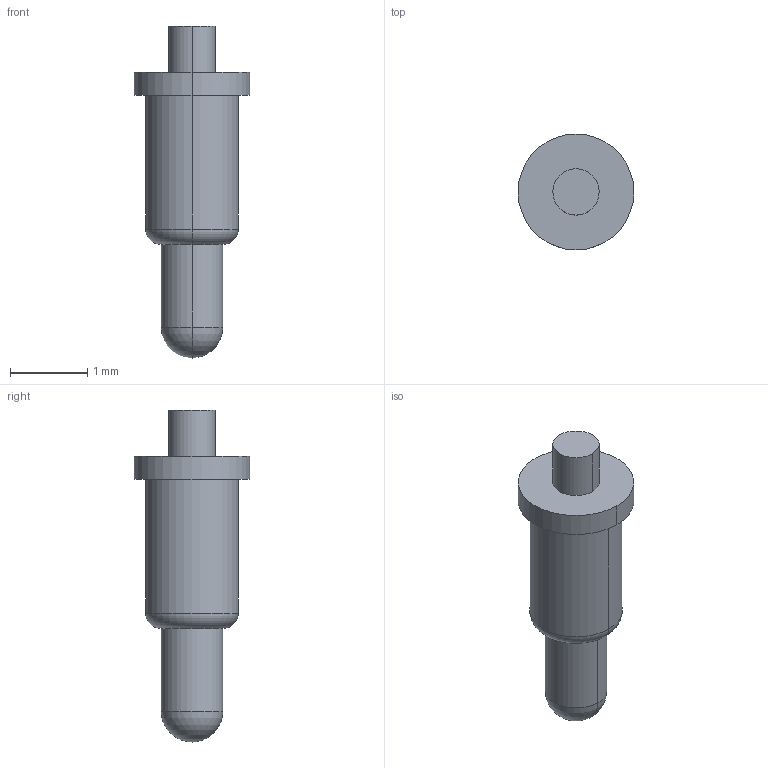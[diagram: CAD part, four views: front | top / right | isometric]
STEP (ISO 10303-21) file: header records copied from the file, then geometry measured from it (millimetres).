
FILE_DESCRIPTION((''),'2;1');
FILE_NAME('PRT0031','2023-05-26T11:54:24',('USER'),(''),'CREO PARAMETRIC BY PTC INC, 2020154','CREO PARAMETRIC BY PTC INC, 2020154','');
FILE_SCHEMA(('CONFIG_CONTROL_DESIGN'));
Length unit declared in the file: millimetre
Products named in the file (1): PRT0031
Bounding box: 1.5 x 1.5 x 4.3 mm (x, y, z)
Volume: 3.5 mm3; surface area: 16.2 mm2
Topology: 1 solids, 1 shells, 15 faces, 30 edges, 17 vertices
Faces by surface type: cylinder 8, plane 3, sphere 2, torus 2
Entity records: 420 total; most frequent: DIRECTION 78, CARTESIAN_POINT 60, ORIENTED_EDGE 56, AXIS2_PLACEMENT_3D 35, EDGE_CURVE 28, CIRCLE 20, VERTEX_POINT 17, EDGE_LOOP 17
